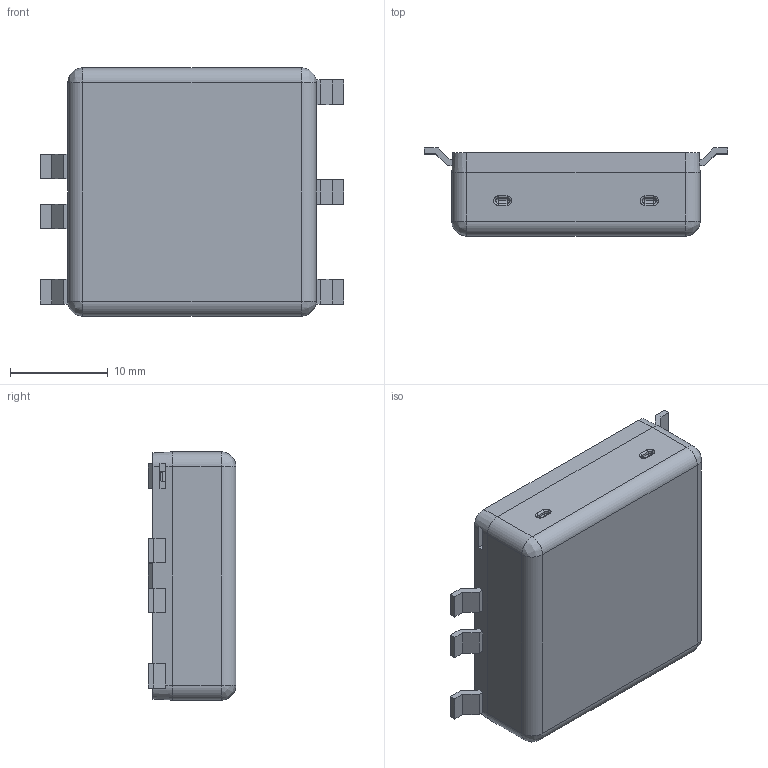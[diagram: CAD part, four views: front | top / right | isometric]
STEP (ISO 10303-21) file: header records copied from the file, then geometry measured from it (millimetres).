
FILE_DESCRIPTION (( 'STEP AP203' ), '1' );
FILE_NAME ('EC3SB SMD- PACKAGE-1130111.STEP', '2024-01-11T06:08:00', ( 'cincon' ), ( '' ), 'SwSTEP 2.0', 'SolidWorks 2020', '' );
FILE_SCHEMA (( 'CONFIG_CONTROL_DESIGN' ));
Length unit declared in the file: millimetre
Products named in the file (1): EC3SB SMD- PACKAGE-1130111
Bounding box: 31 x 9 x 25.4 mm (x, y, z)
Volume: 2072.9 mm3; surface area: 6126.7 mm2
Topology: 1 solids, 1 shells, 387 faces, 1026 edges, 656 vertices
Faces by surface type: plane 227, cylinder 88, bspline 44, cone 28
Entity records: 12687 total; most frequent: CARTESIAN_POINT 3182, ORIENTED_EDGE 2036, DIRECTION 1868, EDGE_CURVE 1018, VECTOR 688, LINE 688, VERTEX_POINT 656, AXIS2_PLACEMENT_3D 590
